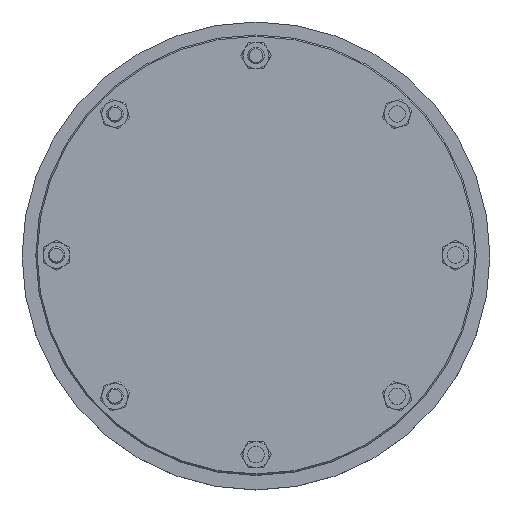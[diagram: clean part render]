
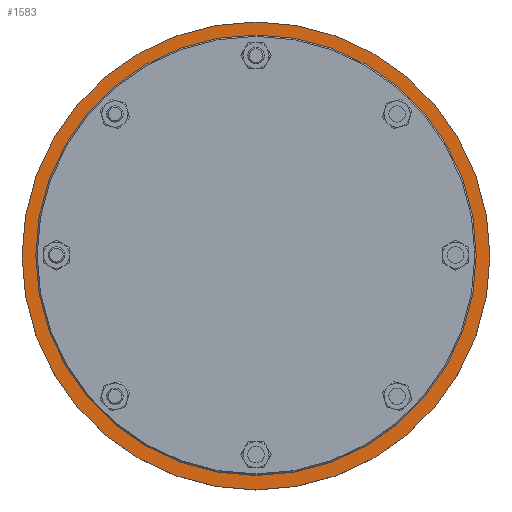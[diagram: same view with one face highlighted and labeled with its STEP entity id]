
A CAD part, top view. The second image highlights one B-rep face of the part: STEP entity #1583.
In plain terms, the highlighted planar face has unit normal (0, 0, 1).
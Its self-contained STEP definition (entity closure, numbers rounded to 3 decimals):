
#1583=ADVANCED_FACE('',(#6287,#6289,#6291,#6293,#6295,#6297,#6299,#6301,#6303,#6305,
#6307,#6309,#6311,#6313),#6315,.T.);
#6287=FACE_BOUND('',#6288,.T.);
#6288=EDGE_LOOP('',(#9971));
#6289=FACE_BOUND('',#6290,.T.);
#6290=EDGE_LOOP('',(#9972));
#6291=FACE_BOUND('',#6292,.T.);
#6292=EDGE_LOOP('',(#9973));
#6293=FACE_BOUND('',#6294,.T.);
#6294=EDGE_LOOP('',(#9974));
#6295=FACE_BOUND('',#6296,.T.);
#6296=EDGE_LOOP('',(#9975));
#6297=FACE_BOUND('',#6298,.T.);
#6298=EDGE_LOOP('',(#9976));
#6299=FACE_BOUND('',#6300,.T.);
#6300=EDGE_LOOP('',(#9977));
#6301=FACE_BOUND('',#6302,.T.);
#6302=EDGE_LOOP('',(#9978));
#6303=FACE_BOUND('',#6304,.T.);
#6304=EDGE_LOOP('',(#9979));
#6305=FACE_BOUND('',#6306,.T.);
#6306=EDGE_LOOP('',(#9980));
#6307=FACE_BOUND('',#6308,.T.);
#6308=EDGE_LOOP('',(#9981));
#6309=FACE_BOUND('',#6310,.T.);
#6310=EDGE_LOOP('',(#9982));
#6311=FACE_BOUND('',#6312,.T.);
#6312=EDGE_LOOP('',(#9983));
#6313=FACE_BOUND('',#6314,.T.);
#6314=EDGE_LOOP('',(#9984));
#6315=PLANE('',#6316);
#6316=AXIS2_PLACEMENT_3D('',#6317,#6318,#6319);
#6317=CARTESIAN_POINT('',(0.,0.,30.));
#6318=DIRECTION('',(0.,0.,1.));
#6319=DIRECTION('',(1.,0.,0.));
#9971=ORIENTED_EDGE('',*,*,#11937,.T.);
#9972=ORIENTED_EDGE('',*,*,#11887,.F.);
#9973=ORIENTED_EDGE('',*,*,#11938,.T.);
#9974=ORIENTED_EDGE('',*,*,#11939,.T.);
#9975=ORIENTED_EDGE('',*,*,#11940,.T.);
#9976=ORIENTED_EDGE('',*,*,#11941,.T.);
#9977=ORIENTED_EDGE('',*,*,#11942,.T.);
#9978=ORIENTED_EDGE('',*,*,#11943,.T.);
#9979=ORIENTED_EDGE('',*,*,#11944,.T.);
#9980=ORIENTED_EDGE('',*,*,#11945,.T.);
#9981=ORIENTED_EDGE('',*,*,#11946,.T.);
#9982=ORIENTED_EDGE('',*,*,#11947,.T.);
#9983=ORIENTED_EDGE('',*,*,#11948,.T.);
#9984=ORIENTED_EDGE('',*,*,#11949,.T.);
#11887=EDGE_CURVE('',#13267,#13267,#13268,.T.);
#11937=EDGE_CURVE('',#13319,#13319,#13320,.T.);
#11938=EDGE_CURVE('',#13321,#13321,#13322,.T.);
#11939=EDGE_CURVE('',#13323,#13323,#13324,.T.);
#11940=EDGE_CURVE('',#13325,#13325,#13326,.T.);
#11941=EDGE_CURVE('',#13327,#13327,#13328,.T.);
#11942=EDGE_CURVE('',#13329,#13329,#13330,.T.);
#11943=EDGE_CURVE('',#13331,#13331,#13332,.T.);
#11944=EDGE_CURVE('',#13333,#13333,#13334,.T.);
#11945=EDGE_CURVE('',#13335,#13335,#13336,.T.);
#11946=EDGE_CURVE('',#13337,#13337,#13338,.T.);
#11947=EDGE_CURVE('',#13339,#13339,#13340,.T.);
#11948=EDGE_CURVE('',#13341,#13341,#13342,.T.);
#11949=EDGE_CURVE('',#13343,#13343,#13344,.T.);
#13267=VERTEX_POINT('',#20364);
#13268=CIRCLE('',#20365,123.);
#13319=VERTEX_POINT('',#20566);
#13320=CIRCLE('',#20567,170.);
#13321=VERTEX_POINT('',#20571);
#13322=CIRCLE('',#20572,11.);
#13323=VERTEX_POINT('',#20576);
#13324=CIRCLE('',#20577,11.);
#13325=VERTEX_POINT('',#20581);
#13326=CIRCLE('',#20582,11.);
#13327=VERTEX_POINT('',#20586);
#13328=CIRCLE('',#20587,11.);
#13329=VERTEX_POINT('',#20591);
#13330=CIRCLE('',#20592,11.);
#13331=VERTEX_POINT('',#20596);
#13332=CIRCLE('',#20597,11.);
#13333=VERTEX_POINT('',#20601);
#13334=CIRCLE('',#20602,11.);
#13335=VERTEX_POINT('',#20606);
#13336=CIRCLE('',#20607,11.);
#13337=VERTEX_POINT('',#20611);
#13338=CIRCLE('',#20612,11.);
#13339=VERTEX_POINT('',#20616);
#13340=CIRCLE('',#20617,11.);
#13341=VERTEX_POINT('',#20621);
#13342=CIRCLE('',#20622,11.);
#13343=VERTEX_POINT('',#20626);
#13344=CIRCLE('',#20627,11.);
#20364=CARTESIAN_POINT('',(123.,0.,30.));
#20365=AXIS2_PLACEMENT_3D('',#20366,#20367,#20368);
#20366=CARTESIAN_POINT('',(0.,0.,30.));
#20367=DIRECTION('',(0.,0.,1.));
#20368=DIRECTION('',(1.,0.,0.));
#20566=CARTESIAN_POINT('',(170.,0.,30.));
#20567=AXIS2_PLACEMENT_3D('',#20568,#20569,#20570);
#20568=CARTESIAN_POINT('',(0.,0.,30.));
#20569=DIRECTION('',(0.,0.,1.));
#20570=DIRECTION('',(1.,0.,0.));
#20571=CARTESIAN_POINT('',(49.176,-142.474,30.));
#20572=AXIS2_PLACEMENT_3D('',#20573,#20574,#20575);
#20573=CARTESIAN_POINT('',(38.176,-142.474,30.));
#20574=DIRECTION('',(0.,0.,-1.));
#20575=DIRECTION('',(1.,0.,0.));
#20576=CARTESIAN_POINT('',(-28.65,-147.974,30.));
#20577=AXIS2_PLACEMENT_3D('',#20578,#20579,#20580);
#20578=CARTESIAN_POINT('',(-38.176,-142.474,30.));
#20579=DIRECTION('',(0.,0.,-1.));
#20580=DIRECTION('',(0.866,-0.5,0.));
#20581=CARTESIAN_POINT('',(-98.798,-113.825,30.));
#20582=AXIS2_PLACEMENT_3D('',#20583,#20584,#20585);
#20583=CARTESIAN_POINT('',(-104.298,-104.298,30.));
#20584=DIRECTION('',(0.,0.,-1.));
#20585=DIRECTION('',(0.5,-0.866,0.));
#20586=CARTESIAN_POINT('',(-142.474,-49.176,30.));
#20587=AXIS2_PLACEMENT_3D('',#20588,#20589,#20590);
#20588=CARTESIAN_POINT('',(-142.474,-38.176,30.));
#20589=DIRECTION('',(0.,0.,-1.));
#20590=DIRECTION('',(0.,-1.,0.));
#20591=CARTESIAN_POINT('',(-147.974,28.65,30.));
#20592=AXIS2_PLACEMENT_3D('',#20593,#20594,#20595);
#20593=CARTESIAN_POINT('',(-142.474,38.176,30.));
#20594=DIRECTION('',(0.,0.,-1.));
#20595=DIRECTION('',(-0.5,-0.866,0.));
#20596=CARTESIAN_POINT('',(-113.825,98.798,30.));
#20597=AXIS2_PLACEMENT_3D('',#20598,#20599,#20600);
#20598=CARTESIAN_POINT('',(-104.298,104.298,30.));
#20599=DIRECTION('',(0.,0.,-1.));
#20600=DIRECTION('',(-0.866,-0.5,0.));
#20601=CARTESIAN_POINT('',(-49.176,142.474,30.));
#20602=AXIS2_PLACEMENT_3D('',#20603,#20604,#20605);
#20603=CARTESIAN_POINT('',(-38.176,142.474,30.));
#20604=DIRECTION('',(0.,0.,-1.));
#20605=DIRECTION('',(-1.,0.,0.));
#20606=CARTESIAN_POINT('',(28.65,147.974,30.));
#20607=AXIS2_PLACEMENT_3D('',#20608,#20609,#20610);
#20608=CARTESIAN_POINT('',(38.176,142.474,30.));
#20609=DIRECTION('',(0.,0.,-1.));
#20610=DIRECTION('',(-0.866,0.5,0.));
#20611=CARTESIAN_POINT('',(98.798,113.825,30.));
#20612=AXIS2_PLACEMENT_3D('',#20613,#20614,#20615);
#20613=CARTESIAN_POINT('',(104.298,104.298,30.));
#20614=DIRECTION('',(0.,0.,-1.));
#20615=DIRECTION('',(-0.5,0.866,0.));
#20616=CARTESIAN_POINT('',(142.474,49.176,30.));
#20617=AXIS2_PLACEMENT_3D('',#20618,#20619,#20620);
#20618=CARTESIAN_POINT('',(142.474,38.176,30.));
#20619=DIRECTION('',(0.,0.,-1.));
#20620=DIRECTION('',(0.,1.,0.));
#20621=CARTESIAN_POINT('',(147.974,-28.65,30.));
#20622=AXIS2_PLACEMENT_3D('',#20623,#20624,#20625);
#20623=CARTESIAN_POINT('',(142.474,-38.176,30.));
#20624=DIRECTION('',(0.,0.,-1.));
#20625=DIRECTION('',(0.5,0.866,0.));
#20626=CARTESIAN_POINT('',(113.825,-98.798,30.));
#20627=AXIS2_PLACEMENT_3D('',#20628,#20629,#20630);
#20628=CARTESIAN_POINT('',(104.298,-104.298,30.));
#20629=DIRECTION('',(0.,0.,-1.));
#20630=DIRECTION('',(0.866,0.5,0.));
